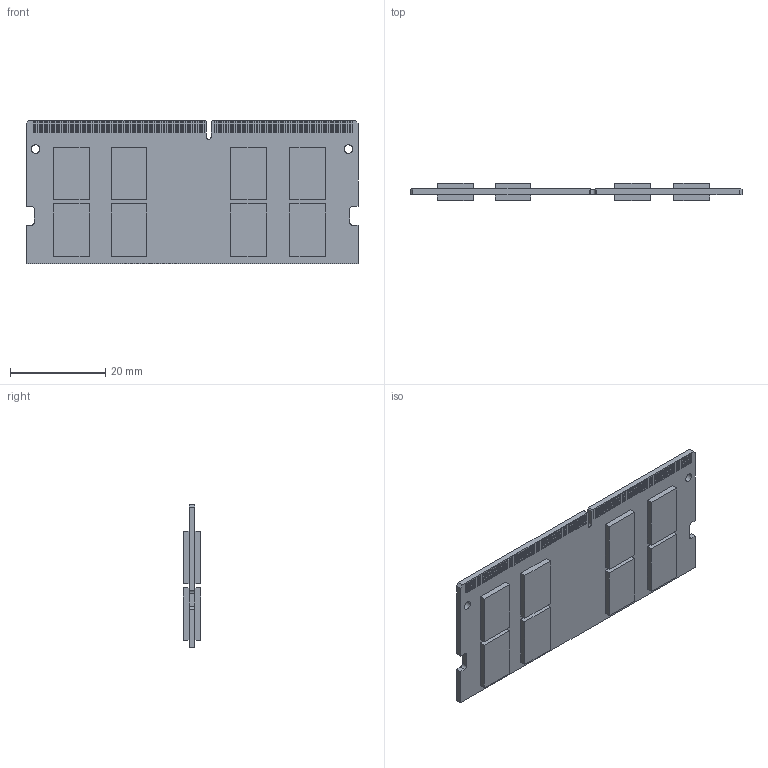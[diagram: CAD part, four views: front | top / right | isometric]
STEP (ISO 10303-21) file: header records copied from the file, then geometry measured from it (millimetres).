
FILE_DESCRIPTION((''),'2;1');
FILE_NAME('DRAM_BA4SRCE1_DDR4_SODIMM_SET_ASM','2017-12-04T15:12:04',('ader_chang'),(''),'CREO PARAMETRIC BY PTC INC, 2016510','CREO PARAMETRIC BY PTC INC, 2016510','');
FILE_SCHEMA(('AUTOMOTIVE_DESIGN { 1 0 10303 214 1 1 1 1 }'));
Length unit declared in the file: millimetre
Products named in the file (5): PCB_DRAM_SO-DIMM-260PIN; LAY_DRAM_DDR4_TOP; LAY_DRAM_DDR4_BOT; FLASH_7-5X11X1-2; DRAM_BA4SRCE1_DDR4_SODIMM_SET_ASM
Assembly tree (19 placements, depth 2):
  DRAM_BA4SRCE1_DDR4_SODIMM_SET_ASM
    PCB_DRAM_SO-DIMM-260PIN
    LAY_DRAM_DDR4_TOP
    LAY_DRAM_DDR4_BOT
    FLASH_7-5X11X1-2  x16
Bounding box: 69.6 x 3.6 x 30 mm (x, y, z)
Volume: 4066 mm3; surface area: 7774.9 mm2
Topology: 17 solids, 17 shells, 1426 faces, 3396 edges, 2264 vertices
Faces by surface type: plane 1417, cylinder 9
Entity records: 51674 total; most frequent: CARTESIAN_POINT 6787, ORIENTED_EDGE 6432, DIRECTION 6019, PRESENTATION_STYLE_ASSIGNMENT 3479, STYLED_ITEM 3219, CURVE_STYLE 3216, EDGE_CURVE 3216, VECTOR 3198
